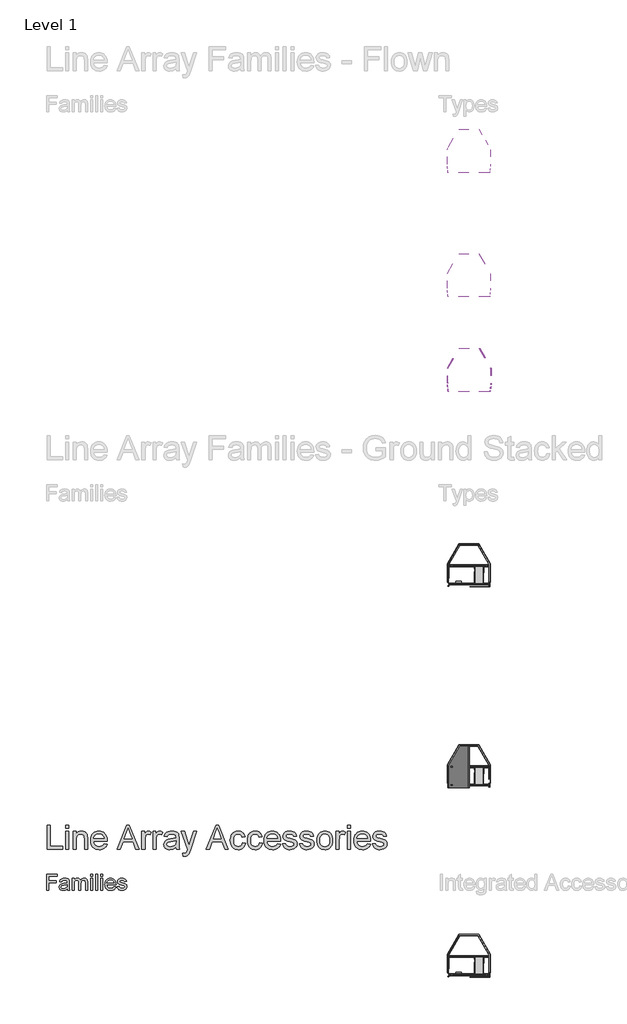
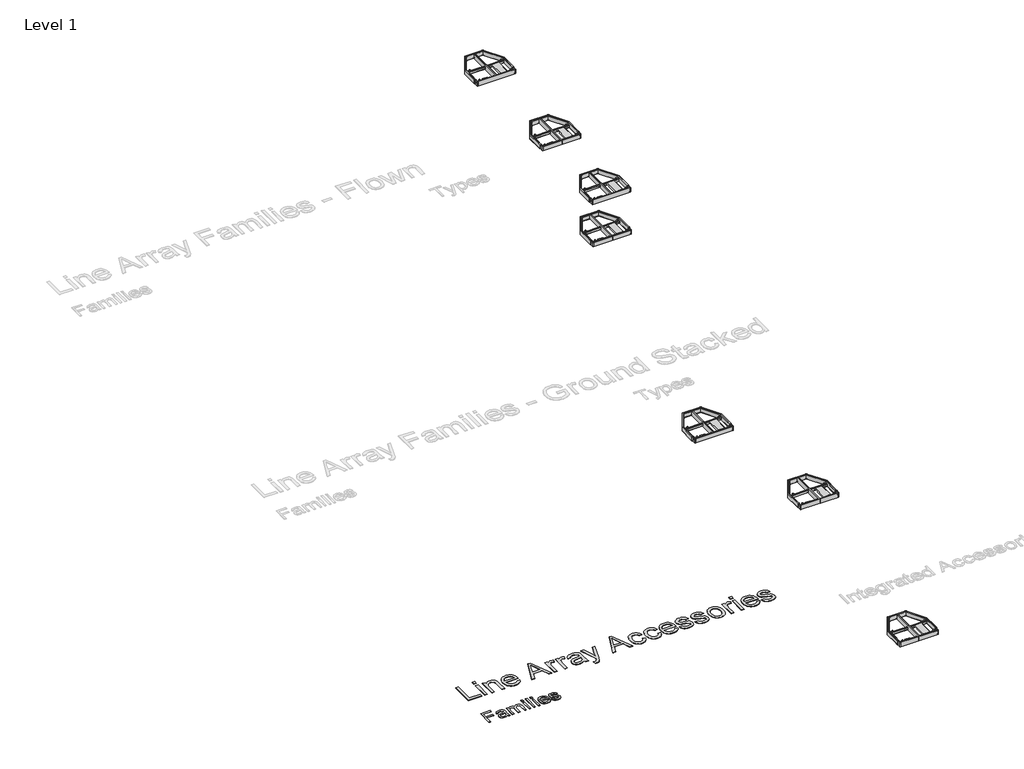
# One storey, part 1 of 7: 9 proxies.
"""IFC4 building model written with IfcOpenShell, lengths in millimetres."""

from ifc_helpers import new_model, si_unit, origin, origin_with_axes, place, context, project, spatial, polyline, outline, extrude, transform, mapped, element, save
from components import communication_devices_215e93a8, communication_devices_da0df73a

model = new_model("IFC4")

# Units and contexts
model_context = context("Model", 3, world=origin())
ifc_project = project(units=[si_unit("LENGTHUNIT", "METRE", prefix="MILLI")], contexts=[model_context])

# Site, building, storey
site = spatial("IfcSite", under=ifc_project)
building = spatial("IfcBuilding", under=site)
storey = spatial("IfcBuildingStorey", under=building, Name="Level 1", Elevation=0.0)

# Proxies
placement = place(None, origin())
communication_devices_shape = communication_devices_215e93a8(model_context)
communication_devices_2_shape = communication_devices_da0df73a(model_context)
element("IfcBuildingElementProxy", 1, Name="d&b J-Series Flying Frame : J Flying Frame", ObjectType="d&b J-Series Flying Frame : J Flying Frame", at=placement, inside=storey, context=model_context, shape_type="MappedRepresentation", body=[
    mapped(communication_devices_shape, transform((-10742.4933844, -14377.9378045, 0.0), x_axis=(1.0, 0.0, 0.0), y_axis=(0.0, 1.0, 0.0), z_axis=(0.0, 0.0, 1.0))),
    mapped(communication_devices_2_shape, transform((-10742.4933844, -14377.9378045, 0.0), x_axis=(1.0, 0.0, 0.0), y_axis=(0.0, 1.0, 0.0), z_axis=(0.0, 0.0, 1.0))),
])
element("IfcBuildingElementProxy", 2, Name="d&b J-Series Flying Frame : J Flying Frame", ObjectType="d&b J-Series Flying Frame : J Flying Frame", at=placement, inside=storey, context=model_context, shape_type="MappedRepresentation", body=[
    mapped(communication_devices_shape, transform((-10742.4933844, 2233.6323262, 4000.0), x_axis=(1.0000000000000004, 0.0, 0.0), y_axis=(0.0, 1.0000000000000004, 0.0), z_axis=(0.0, 0.0, 1.0))),
    mapped(communication_devices_2_shape, transform((-10742.4933844, 2233.6323262, 4000.0), x_axis=(1.0000000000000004, 0.0, 0.0), y_axis=(0.0, 1.0000000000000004, 0.0), z_axis=(0.0, 0.0, 1.0))),
])
element("IfcBuildingElementProxy", 3, Name="d&b J-Series Flying Frame : J Flying Frame", ObjectType="d&b J-Series Flying Frame : J Flying Frame", at=placement, inside=storey, context=model_context, shape_type="MappedRepresentation", body=[
    mapped(communication_devices_shape, transform((-10742.4933844, 5263.3893399, 4000.0065609), x_axis=(1.0000000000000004, 0.0, 0.0), y_axis=(0.0, 1.0000000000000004, 0.0), z_axis=(0.0, 0.0, 1.0))),
    mapped(communication_devices_2_shape, transform((-10742.4933844, 5263.3893399, 4000.0065609), x_axis=(1.0000000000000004, 0.0, 0.0), y_axis=(0.0, 1.0000000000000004, 0.0), z_axis=(0.0, 0.0, 1.0))),
])
element("IfcBuildingElementProxy", 4, Name="d&b J-Series Flying Frame : J Flying Frame", ObjectType="d&b J-Series Flying Frame : J Flying Frame", at=placement, inside=storey, context=model_context, shape_type="MappedRepresentation", body=[
    mapped(communication_devices_shape, transform((-10742.4933844, -77.9987699, 3880.0), x_axis=(1.0000000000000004, 0.0, 0.0), y_axis=(0.0, 1.0000000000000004, 0.0), z_axis=(0.0, 0.0, 1.0))),
    mapped(communication_devices_2_shape, transform((-10742.4933844, -77.9987699, 3880.0), x_axis=(1.0000000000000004, 0.0, 0.0), y_axis=(0.0, 1.0000000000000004, 0.0), z_axis=(0.0, 0.0, 1.0))),
])
element("IfcBuildingElementProxy", 5, Name="d&b J-Series Flying Frame : J Flying Frame", ObjectType="d&b J-Series Flying Frame : J Flying Frame", at=placement, inside=storey, context=model_context, shape_type="MappedRepresentation", body=[
    mapped(communication_devices_shape, transform((-10742.4933844, -4843.7257193, 0.0), x_axis=(1.0000000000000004, 0.0, 0.0), y_axis=(0.0, 1.0000000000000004, 0.0), z_axis=(0.0, 0.0, 1.0))),
    mapped(communication_devices_2_shape, transform((-10742.4933844, -4843.7257193, 0.0), x_axis=(1.0000000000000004, 0.0, 0.0), y_axis=(0.0, 1.0000000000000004, 0.0), z_axis=(0.0, 0.0, 1.0))),
])
element("IfcBuildingElementProxy", 6, Name="d&b J-Series Flying Frame : J Flying Frame", ObjectType="d&b J-Series Flying Frame : J Flying Frame", at=placement, inside=storey, context=model_context, shape_type="MappedRepresentation", body=[
    mapped(communication_devices_shape, transform((-10722.9933844, -77.9987699, 2675.5999957), x_axis=(1.0000000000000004, 0.0, 0.0), y_axis=(0.0, 1.0000000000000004, 0.0), z_axis=(0.0, 0.0, 1.0))),
    mapped(communication_devices_2_shape, transform((-10722.9933844, -77.9987699, 2675.5999957), x_axis=(1.0000000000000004, 0.0, 0.0), y_axis=(0.0, 1.0000000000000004, 0.0), z_axis=(0.0, 0.0, 1.0))),
])
element("IfcBuildingElementProxy", 7, Name="d&b J-Series Flying Frame : J Flying Frame", ObjectType="d&b J-Series Flying Frame : J Flying Frame", at=placement, inside=storey, context=model_context, shape_type="MappedRepresentation", body=[
    mapped(communication_devices_shape, transform((-10742.4933844, -9750.1464058, 1084.4000021), x_axis=(1.0000000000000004, 0.0, 0.0), y_axis=(0.0, 1.0000000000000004, 0.0), z_axis=(0.0, 0.0, 1.0))),
    mapped(communication_devices_2_shape, transform((-10742.4933844, -9750.1464058, 1084.4000021), x_axis=(1.0000000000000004, 0.0, 0.0), y_axis=(0.0, 1.0000000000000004, 0.0), z_axis=(0.0, 0.0, 1.0))),
])
element("IfcBuildingElementProxy", 8, Name="400mm Arial", ObjectType="400mm Arial", at=placement, inside=storey, context=model_context, shape_type="SweptSolid", body=[
    extrude(outline(polyline([(-21056.720891, -12248.6945164), (-21056.720891, -11856.9369407), (-20793.5087698, -11856.9369407), (-20793.5087698, -11905.9066376), (-21007.7511941, -11905.9066376), (-21007.7511941, -12022.2096679), (-20824.1148304, -12022.2096679), (-20824.1148304, -12071.1793649), (-21007.7511941, -12071.1793649), (-21007.7511941, -12248.6945164), (-21056.720891, -12248.6945164)])), origin_with_axes(), (0.0, 0.0, 1.0), 5.0),
    extrude(outline(polyline([(-20548.660285, -12211.9672437), (-20572.0571836, -12232.02856), (-20596.1475009, -12245.1556907), (-20621.4811893, -12252.4007191), (-20648.6082016, -12254.8157285), (-20670.4120309, -12253.3631362), (-20689.5318522, -12249.0053592), (-20705.9676654, -12241.7423976), (-20719.7194706, -12231.5742513), (-20730.5780466, -12219.1465169), (-20738.3341723, -12205.104791), (-20742.9878477, -12189.4490737), (-20744.5390729, -12172.1793649), (-20742.1957963, -12151.8789388), (-20735.1659668, -12133.4435695), (-20724.3223352, -12117.6623195), (-20710.5376524, -12105.3242513), (-20676.2493001, -12089.2560695), (-20633.879035, -12081.8914861), (-20583.8094327, -12074.144327), (-20548.9472168, -12065.0581528), (-20548.660285, -12054.1547437), (-20552.0317338, -12032.3001035), (-20562.1460804, -12018.0013346), (-20584.7658721, -12007.3848573), (-20616.2805501, -12003.8460316), (-20645.4519516, -12006.2012636), (-20665.8241107, -12013.2669596), (-20679.7163929, -12026.3343128), (-20689.4481638, -12046.6945164), (-20738.4178607, -12040.5733043), (-20729.9175056, -12013.7930013), (-20717.2327282, -11992.7513346), (-20699.1799346, -11976.6592418), (-20674.5755312, -11964.7276604), (-20644.4835568, -11957.339166), (-20609.9680501, -11954.8763346), (-20576.8632916, -11957.0522342), (-20550.6209857, -11963.5799331), (-20530.8346458, -11973.3953924), (-20517.097785, -11985.4345732), (-20507.9876997, -12000.3191613), (-20502.0816865, -12018.6708422), (-20499.690588, -12061.519327), (-20499.690588, -12122.4445164), (-20497.2038456, -12207.5198005), (-20487.4481638, -12248.6945164), (-20536.4178607, -12248.6945164), (-20544.2606638, -12231.6698952), (-20548.660285, -12211.9672437)]), holes=[polyline([(-20548.660285, -12114.0278498), (-20581.5618001, -12122.1814956), (-20627.6621789, -12129.0439482), (-20669.7933342, -12136.9823952), (-20680.7565208, -12142.4101888), (-20688.8743001, -12149.894327), (-20693.8956069, -12158.8609464), (-20695.5693759, -12168.7361831), (-20691.9229507, -12183.2979729), (-20680.9836751, -12195.2295543), (-20662.990659, -12203.1919123), (-20638.1830122, -12205.8460316), (-20611.8809289, -12202.9169359), (-20588.6394516, -12194.129649), (-20569.7975956, -12181.1818507), (-20556.6943759, -12165.771221), (-20550.8840066, -12149.894327), (-20548.9472168, -12127.896221), (-20548.660285, -12114.0278498)])]), origin_with_axes(), (0.0, 0.0, 1.0), 5.0),
    extrude(outline(polyline([(-20432.3572547, -12248.6945164), (-20432.3572547, -11960.9975467), (-20383.3875577, -11960.9975467), (-20383.3875577, -12008.3412967), (-20368.658391, -11986.594256), (-20349.720891, -11969.5576793), (-20327.2206543, -11958.5466708), (-20301.8032774, -11954.8763346), (-20274.5686657, -11958.6184037), (-20252.7379365, -11969.8446111), (-20236.4306448, -11987.8137162), (-20225.7663456, -12011.7844785), (-20207.9167954, -11986.8871656), (-20187.5565918, -11969.1033706), (-20164.6857348, -11958.4330936), (-20139.3042244, -11954.8763346), (-20119.7002057, -11956.3558268), (-20102.4932632, -11960.7943034), (-20087.683397, -11968.1917643), (-20075.2706069, -11978.5482096), (-20065.4581365, -11991.9831942), (-20058.4492291, -12008.6162731), (-20054.2438846, -12028.4474461), (-20052.8421032, -12051.4767134), (-20052.8421032, -12248.6945164), (-20101.8118001, -12248.6945164), (-20101.8118001, -12072.5183801), (-20106.3548872, -12031.630596), (-20112.7391202, -12020.3565666), (-20122.8056448, -12011.4975467), (-20135.7534431, -12005.7589104), (-20150.7814971, -12003.8460316), (-20177.3107348, -12008.7477835), (-20198.9382206, -12023.4530392), (-20207.3279874, -12034.7330463), (-20213.320678, -12048.96606), (-20218.1148304, -12086.2911073), (-20218.1148304, -12248.6945164), (-20267.0845274, -12248.6945164), (-20267.0845274, -12067.0666755), (-20269.9179791, -12039.3777551), (-20278.4183342, -12019.6272816), (-20293.3746552, -12007.7913441), (-20315.5760047, -12003.8460316), (-20334.4417717, -12006.4762399), (-20351.8250577, -12014.3668649), (-20366.1716486, -12027.3266187), (-20375.9273304, -12045.1642134), (-20381.5225009, -12069.9120827), (-20383.3875577, -12103.6026604), (-20383.3875577, -12248.6945164), (-20432.3572547, -12248.6945164)])), origin_with_axes(), (0.0, 0.0, 1.0), 5.0),
    extrude(outline(polyline([(-19979.3875577, -12248.6945164), (-19979.3875577, -11960.9975467), (-19930.4178607, -11960.9975467), (-19930.4178607, -12248.6945164), (-19979.3875577, -12248.6945164)])), origin_with_axes(), (0.0, 0.0, 1.0), 5.0),
    extrude(outline(polyline([(-19979.3875577, -11905.9066376), (-19979.3875577, -11856.9369407), (-19930.4178607, -11856.9369407), (-19930.4178607, -11905.9066376), (-19979.3875577, -11905.9066376)])), origin_with_axes(), (0.0, 0.0, 1.0), 5.0),
    extrude(outline(polyline([(-19856.9633153, -12248.6945164), (-19856.9633153, -11856.9369407), (-19807.9936183, -11856.9369407), (-19807.9936183, -12248.6945164), (-19856.9633153, -12248.6945164)])), origin_with_axes(), (0.0, 0.0, 1.0), 5.0),
    extrude(outline(polyline([(-19734.5390729, -12248.6945164), (-19734.5390729, -11960.9975467), (-19685.5693759, -11960.9975467), (-19685.5693759, -12248.6945164), (-19734.5390729, -12248.6945164)])), origin_with_axes(), (0.0, 0.0, 1.0), 5.0),
    extrude(outline(polyline([(-19734.5390729, -11905.9066376), (-19734.5390729, -11856.9369407), (-19685.5693759, -11856.9369407), (-19685.5693759, -11905.9066376), (-19734.5390729, -11905.9066376)])), origin_with_axes(), (0.0, 0.0, 1.0), 5.0),
    extrude(outline(polyline([(-19410.6886941, -12162.9975467), (-19362.6754365, -12169.1187589), (-19370.0370309, -12188.3491684), (-19379.975034, -12205.2960789), (-19392.4894457, -12219.9594904), (-19407.580266, -12232.3394028), (-19425.0920736, -12242.1727953), (-19444.8694469, -12249.1966471), (-19491.220891, -12254.8157285), (-19521.605775, -12252.3917525), (-19548.6789876, -12245.1198242), (-19572.4405288, -12232.9999437), (-19592.8903986, -12216.0321111), (-19609.3351784, -12194.6885683), (-19621.0814497, -12169.4415571), (-19628.1292125, -12140.2910777), (-19630.4784668, -12107.2371301), (-19628.1053015, -12073.062355), (-19620.9858058, -12042.9404918), (-19609.1199796, -12016.8715406), (-19592.5078229, -11994.8555013), (-19572.1117528, -11977.3646159), (-19548.8941865, -11964.8711263), (-19522.855124, -11957.3750325), (-19493.9945653, -11954.8763346), (-19466.0635461, -11957.3690548), (-19440.8045795, -11964.8472153), (-19418.2176654, -11977.3108161), (-19398.3028039, -11994.7598573), (-19382.0463231, -12016.7280747), (-19370.4345511, -12042.7492039), (-19363.4674879, -12072.8232451), (-19361.1451335, -12106.9501982), (-19361.4320653, -12120.1490619), (-19581.5087698, -12120.1490619), (-19578.6723292, -12139.6903142), (-19573.0323257, -12156.8046017), (-19564.5887592, -12171.4919241), (-19553.3416297, -12183.7522816), (-19524.9234242, -12200.3225941), (-19490.2644516, -12205.8460316), (-19464.2014782, -12203.2875562), (-19442.2511941, -12195.6121301), (-19424.4135994, -12182.3415335), (-19410.6886941, -12162.9975467)]), holes=[polyline([(-19581.5087698, -12071.1793649), (-19410.1148304, -12071.1793649), (-19416.7381732, -12045.3076793), (-19429.721838, -12026.800577), (-19443.076123, -12016.7579634), (-19458.2715539, -12009.5846679), (-19494.1858532, -12003.8460316), (-19527.1949677, -12008.4249852), (-19554.4893569, -12022.161846), (-19573.4627234, -12043.5741329), (-19581.5087698, -12071.1793649)])]), origin_with_axes(), (0.0, 0.0, 1.0), 5.0),
    extrude(outline(polyline([(-19330.5390729, -12162.9975467), (-19281.5693759, -12156.8763346), (-19273.8461278, -12177.8223573), (-19258.9017622, -12193.2210316), (-19236.6406354, -12202.6897816), (-19206.9671032, -12205.8460316), (-19177.6522357, -12202.9528024), (-19157.0409668, -12194.2731149), (-19144.8463645, -12181.6959369), (-19140.7814971, -12167.1102361), (-19144.8702755, -12154.628702), (-19157.1366107, -12145.1121301), (-19207.5409668, -12131.1481149), (-19281.2824441, -12107.1893081), (-19299.9449677, -12095.1501272), (-19313.4666297, -12079.2134558), (-19321.680053, -12060.3955107), (-19324.4178607, -12039.7125089), (-19322.2180501, -12020.7391424), (-19315.6186183, -12003.224346), (-19305.2173399, -11987.8615382), (-19291.6119895, -11975.3441376), (-19260.4798872, -11960.8540808), (-19218.3487319, -11954.8763346), (-19186.4753891, -11957.2793886), (-19158.7625577, -11964.4885505), (-19136.4775198, -11975.7984464), (-19120.8875577, -11990.503702), (-19110.5580122, -12009.6922674), (-19104.0542244, -12034.4520922), (-19153.0239213, -12040.5733043), (-19159.2049109, -12025.1626746), (-19171.4353797, -12013.5538914), (-19189.8348825, -12006.2729965), (-19214.5229744, -12003.8460316), (-19242.6422925, -12006.1653971), (-19261.3885047, -12013.1234937), (-19271.933249, -12023.1661073), (-19275.4481638, -12034.739024), (-19269.6138835, -12048.989971), (-19251.345891, -12059.7977361), (-19209.1669138, -12070.2229255), (-19137.2904933, -12093.2731149), (-19118.3051713, -12104.2960789), (-19103.9107585, -12119.3839104), (-19094.8365397, -12138.5844312), (-19091.8118001, -12161.9454634), (-19095.3625814, -12186.0955581), (-19106.0149251, -12208.8109937), (-19123.3623446, -12228.3104018), (-19146.9983532, -12242.8124142), (-19175.5480691, -12251.8149), (-19207.6366107, -12254.8157285), (-19233.9924938, -12253.369114), (-19257.0127944, -12249.0292702), (-19276.6975127, -12241.7961973), (-19293.0466486, -12231.6698952), (-19306.4009336, -12218.6981859), (-19317.1010994, -12202.9288914), (-19325.1471458, -12184.3620117), (-19330.5390729, -12162.9975467)])), origin_with_axes(), (0.0, 0.0, 1.0), 5.0),
])
element("IfcBuildingElementProxy", 9, Name="600mm Arial", ObjectType="600mm Arial", at=placement, inside=storey, context=model_context, shape_type="SweptSolid", body=[
    extrude(outline(polyline([(-21034.9539913, -11248.6945164), (-21034.9539913, -10657.9252857), (-20961.1078374, -10657.9252857), (-20961.1078374, -11174.8483626), (-20665.723222, -11174.8483626), (-20665.723222, -11248.6945164), (-21034.9539913, -11248.6945164)])), origin_with_axes(), (0.0, 0.0, 1.0), 5.0),
    extrude(outline(polyline([(-20591.8770682, -10731.7714395), (-20591.8770682, -10657.9252857), (-20518.0309143, -10657.9252857), (-20518.0309143, -10731.7714395), (-20591.8770682, -10731.7714395)])), origin_with_axes(), (0.0, 0.0, 1.0), 5.0),
    extrude(outline(polyline([(-20591.8770682, -11248.6945164), (-20591.8770682, -10814.8483626), (-20518.0309143, -10814.8483626), (-20518.0309143, -11248.6945164), (-20591.8770682, -11248.6945164)])), origin_with_axes(), (0.0, 0.0, 1.0), 5.0),
    extrude(outline(polyline([(-20407.2616836, -11248.6945164), (-20407.2616836, -10814.8483626), (-20333.4155297, -10814.8483626), (-20333.4155297, -10875.4252857), (-20307.7604817, -10844.8844203), (-20276.9491836, -10823.0695164), (-20240.9816355, -10809.9805741), (-20199.8578374, -10805.6175934), (-20163.457597, -10809.1332184), (-20130.1222605, -10819.6800934), (-20102.3217797, -10835.9421126), (-20082.5261067, -10856.6031703), (-20069.0946163, -10881.6091799), (-20060.3866836, -10910.9060549), (-20056.4924528, -10982.3002857), (-20056.4924528, -11248.6945164), (-20130.3386067, -11248.6945164), (-20130.3386067, -10992.2522087), (-20132.4660105, -10954.0671126), (-20138.848222, -10926.9156703), (-20150.6210586, -10907.4625453), (-20168.9203374, -10892.372401), (-20192.3758663, -10882.6909107), (-20219.6174528, -10879.4637472), (-20242.0408302, -10881.2756462), (-20262.8686547, -10886.7113434), (-20282.1009264, -10895.7708385), (-20299.7376451, -10908.4541318), (-20314.4717196, -10926.2035309), (-20324.9960586, -10950.4613434), (-20331.3106619, -10981.2275693), (-20333.4155297, -11018.5022087), (-20333.4155297, -11248.6945164), (-20407.2616836, -11248.6945164)])), origin_with_axes(), (0.0, 0.0, 1.0), 5.0),
    extrude(outline(polyline([(-19651.2039913, -11119.4637472), (-19578.8001451, -11128.6945164), (-19589.9014071, -11157.6939155), (-19604.8878855, -11183.2498049), (-19623.7595802, -11205.3621847), (-19646.5164913, -11224.0310549), (-19672.9242437, -11238.8597809), (-19702.7484624, -11249.451728), (-19735.9891475, -11255.8068962), (-19772.646299, -11257.9252857), (-19818.4666115, -11254.2699371), (-19859.2929336, -11243.3038914), (-19895.1252653, -11225.0271486), (-19925.9636067, -11199.4397087), (-19950.7622845, -11167.2537111), (-19968.4756259, -11129.1812953), (-19979.1036307, -11085.2224611), (-19982.646299, -11035.3772087), (-19979.067573, -10983.841752), (-19968.3313951, -10938.4180741), (-19950.4377653, -10899.1061751), (-19925.3866836, -10865.9060549), (-19894.629472, -10839.529853), (-19859.6174528, -10820.6897087), (-19820.3506259, -10809.3856222), (-19776.8289913, -10805.6175934), (-19734.7090994, -10809.3766078), (-19696.6186547, -10820.653651), (-19662.5576571, -10839.4487232), (-19632.5261067, -10865.7618241), (-19608.0113831, -10898.8898289), (-19590.5008663, -10938.1296126), (-19579.9945562, -10983.4811751), (-19576.4924528, -11034.9445164), (-19576.9251451, -11054.8483626), (-19908.8001451, -11054.8483626), (-19904.5228014, -11084.3165116), (-19896.0176932, -11110.1248049), (-19883.2848206, -11132.2732424), (-19866.3241836, -11150.7618241), (-19846.0732821, -11165.3381462), (-19823.4696163, -11175.7498049), (-19798.513186, -11181.9968001), (-19771.2039913, -11184.0791318), (-19731.9011067, -11180.2209587), (-19698.8001451, -11168.6464395), (-19671.9011067, -11148.6344203), (-19651.2039913, -11119.4637472)]), holes=[polyline([(-19908.8001451, -10981.0022087), (-19650.3386067, -10981.0022087), (-19660.3265874, -10941.9877857), (-19668.9173326, -10926.6452376), (-19679.9059143, -10914.0791318), (-19700.0441355, -10898.934901), (-19722.958799, -10888.1175934), (-19748.6499047, -10881.6272087), (-19777.1174528, -10879.4637472), (-19803.0834985, -10881.1900092), (-19826.895097, -10886.3687953), (-19848.5522485, -10895.0001054), (-19868.0549528, -10907.0839395), (-19884.4206379, -10922.0614034), (-19896.6667317, -10939.373603), (-19904.7932341, -10959.0205381), (-19908.8001451, -10981.0022087)])]), origin_with_axes(), (0.0, 0.0, 1.0), 5.0),
    extrude(outline(polyline([(-19331.4443759, -11248.6945164), (-19095.6270682, -10657.9252857), (-19032.7424528, -10657.9252857), (-18796.9251451, -11248.6945164), (-18874.9539913, -11248.6945164), (-18942.598222, -11064.0791318), (-19185.9155297, -11064.0791318), (-19253.4155297, -11248.6945164), (-19331.4443759, -11248.6945164)]), holes=[polyline([(-19158.8001451, -10990.232978), (-18969.5693759, -10990.232978), (-19022.7905297, -10844.9925934), (-19064.1847605, -10731.7714395), (-19100.9636067, -10832.3002857), (-19158.8001451, -10990.232978)])]), origin_with_axes(), (0.0, 0.0, 1.0), 5.0),
    extrude(outline(polyline([(-18727.2616836, -11248.6945164), (-18727.2616836, -10814.8483626), (-18662.646299, -10814.8483626), (-18662.646299, -10879.0310549), (-18638.7761067, -10841.8195164), (-18616.7809143, -10819.8964395), (-18594.7136067, -10809.1873049), (-18570.6270682, -10805.6175934), (-18533.848222, -10811.3147087), (-18496.4924528, -10828.4060549), (-18521.1559143, -10894.607978), (-18547.1174528, -10883.2498049), (-18573.0789913, -10879.4637472), (-18595.1282701, -10883.1055741), (-18614.833799, -10894.0310549), (-18630.7532701, -10911.4108626), (-18641.4443759, -10934.4156703), (-18650.4227413, -10975.6656703), (-18653.4155297, -11020.6656703), (-18653.4155297, -11248.6945164), (-18727.2616836, -11248.6945164)])), origin_with_axes(), (0.0, 0.0, 1.0), 5.0),
    extrude(outline(polyline([(-18450.3386067, -11248.6945164), (-18450.3386067, -10814.8483626), (-18385.723222, -10814.8483626), (-18385.723222, -10879.0310549), (-18361.8530297, -10841.8195164), (-18339.8578374, -10819.8964395), (-18317.7905297, -10809.1873049), (-18293.7039913, -10805.6175934), (-18256.9251451, -10811.3147087), (-18219.5693759, -10828.4060549), (-18244.2328374, -10894.607978), (-18270.1943759, -10883.2498049), (-18296.1559143, -10879.4637472), (-18318.2051932, -10883.1055741), (-18337.910722, -10894.0310549), (-18353.8301932, -10911.4108626), (-18364.521299, -10934.4156703), (-18373.4996643, -10975.6656703), (-18376.4924528, -11020.6656703), (-18376.4924528, -11248.6945164), (-18450.3386067, -11248.6945164)])), origin_with_axes(), (0.0, 0.0, 1.0), 5.0),
    extrude(outline(polyline([(-17896.4924528, -11193.309901), (-17931.7749047, -11223.5623049), (-17968.1030297, -11243.357978), (-18006.3061547, -11254.2834587), (-18047.2136067, -11257.9252857), (-18080.0937148, -11255.7347809), (-18108.926347, -11249.1632664), (-18133.7115033, -11238.2107424), (-18154.4491836, -11222.8772087), (-18170.8238831, -11204.1362232), (-18182.520097, -11182.9613434), (-18189.5378254, -11159.3525693), (-18191.8770682, -11133.309901), (-18188.3434143, -11102.6969203), (-18177.7424528, -11074.8964395), (-18161.3902893, -11051.0983626), (-18140.6030297, -11032.4925934), (-18116.1739432, -11018.4300934), (-18088.896299, -11008.2618241), (-18025.0020682, -10997.1560549), (-17949.4972605, -10985.4733626), (-17896.9251451, -10971.7714395), (-17896.4924528, -10955.3291318), (-17901.5765874, -10922.372401), (-17907.9317557, -10910.1668722), (-17916.8289913, -10900.809901), (-17932.207597, -10891.4709587), (-17950.9395682, -10884.8002857), (-17998.4636067, -10879.4637472), (-18042.4539913, -10883.0154299), (-18073.1751451, -10893.670478), (-18094.1246643, -10913.3760068), (-18108.8001451, -10944.0791318), (-18182.646299, -10934.8483626), (-18169.8277893, -10894.4637472), (-18150.6991836, -10862.732978), (-18123.4756259, -10838.466151), (-18086.3722605, -10820.4733626), (-18040.9936547, -10809.3315357), (-17988.9443759, -10805.6175934), (-17939.0225009, -10808.8988434), (-17899.4491836, -10818.7425934), (-17869.6114432, -10833.544276), (-17848.896299, -10851.6993241), (-17835.1583182, -10874.1452376), (-17826.2520682, -10901.8195164), (-17822.646299, -10966.434901), (-17822.646299, -11058.309901), (-17818.896299, -11186.6031703), (-17813.3434143, -11218.3159107), (-17804.1847605, -11248.6945164), (-17878.0309143, -11248.6945164), (-17889.8578374, -11223.0214395), (-17896.4924528, -11193.309901)]), holes=[polyline([(-17896.4924528, -11045.6175934), (-17946.1078374, -11057.9132664), (-18015.6270682, -11068.2618241), (-18079.160722, -11080.232978), (-18095.693174, -11088.4180741), (-18107.9347605, -11099.7041318), (-18115.5068759, -11113.2257664), (-18118.0309143, -11128.1175934), (-18112.5321163, -11150.076728), (-18096.035722, -11168.0695164), (-18068.9023086, -11180.076728), (-18031.4924528, -11184.0791318), (-17991.8289913, -11179.6620645), (-17956.7809143, -11166.4108626), (-17928.3674528, -11146.8856222), (-17908.6078374, -11123.6464395), (-17899.8458182, -11099.7041318), (-17896.9251451, -11066.5310549), (-17896.4924528, -11045.6175934)])]), origin_with_axes(), (0.0, 0.0, 1.0), 5.0),
    extrude(outline(polyline([(-17721.1078374, -11414.8483626), (-17730.3386067, -11343.7425934), (-17692.8386067, -11350.232978), (-17673.115049, -11348.1957184), (-17657.7905297, -11342.0839395), (-17645.8554336, -11332.3303337), (-17636.3001451, -11319.3675934), (-17616.1078374, -11264.9925934), (-17610.3386067, -11247.107978), (-17767.2616836, -10814.8483626), (-17689.3770682, -10814.8483626), (-17606.1559143, -11055.7137472), (-17577.1655297, -11152.059901), (-17548.1751451, -11066.9637472), (-17462.646299, -10814.8483626), (-17385.3386067, -10814.8483626), (-17536.348222, -11259.0791318), (-17575.5789913, -11355.4252857), (-17595.6631259, -11386.1824972), (-17618.4155297, -11407.4925934), (-17644.8458182, -11419.9324972), (-17675.9636067, -11424.0791318), (-17697.3458182, -11421.7714395), (-17721.1078374, -11414.8483626)])), origin_with_axes(), (0.0, 0.0, 1.0), 5.0),
    extrude(outline(polyline([(-17152.9828374, -11248.6945164), (-16917.1655297, -10657.9252857), (-16854.2809143, -10657.9252857), (-16618.4636067, -11248.6945164), (-16696.4924528, -11248.6945164), (-16764.1366836, -11064.0791318), (-17007.4539913, -11064.0791318), (-17074.9539913, -11248.6945164), (-17152.9828374, -11248.6945164)]), holes=[polyline([(-16980.3386067, -10990.232978), (-16791.1078374, -10990.232978), (-16844.3289913, -10844.9925934), (-16885.723222, -10731.7714395), (-16922.5020682, -10832.3002857), (-16980.3386067, -10990.232978)])]), origin_with_axes(), (0.0, 0.0, 1.0), 5.0),
    extrude(outline(polyline([(-16271.8770682, -11091.7714395), (-16198.0309143, -11101.0022087), (-16206.0627653, -11135.8474611), (-16218.6198567, -11166.6812953), (-16235.7021884, -11193.5037111), (-16257.3097605, -11216.3147087), (-16282.5321163, -11234.5193361), (-16310.458799, -11247.5226414), (-16341.0898086, -11255.3246246), (-16374.4251451, -11257.9252857), (-16415.8419119, -11254.2969804), (-16452.9768278, -11243.4120645), (-16485.8298927, -11225.2705381), (-16514.4011067, -11199.872401), (-16537.5276091, -11167.6954179), (-16554.0465393, -11129.217353), (-16563.9578975, -11084.4382063), (-16567.2616836, -11033.357978), (-16561.6186547, -10967.6428337), (-16554.5648687, -10938.0710188), (-16544.6895682, -10910.6897087), (-16531.9251451, -10886.0487833), (-16516.2039913, -10864.6981222), (-16497.5261067, -10846.6377256), (-16475.8914913, -10831.8675934), (-16452.27821, -10820.3832184), (-16427.6643278, -10812.1800934), (-16402.0498446, -10807.2582184), (-16375.4347605, -10805.6175934), (-16342.6718398, -10807.8711991), (-16313.036924, -10814.6320164), (-16286.5300129, -10825.9000453), (-16263.1511067, -10841.6752857), (-16243.2968398, -10861.5971607), (-16227.363847, -10885.3050934), (-16215.3521283, -10912.7990837), (-16207.2616836, -10944.0791318), (-16281.1078374, -10953.309901), (-16294.5032701, -10921.092353), (-16315.3626451, -10897.997401), (-16342.5321163, -10884.0971607), (-16374.8578374, -10879.4637472), (-16399.9494841, -10881.7443962), (-16422.5801932, -10888.5863434), (-16442.7499648, -10899.9895885), (-16460.458799, -10915.9541318), (-16474.8773687, -10936.8495645), (-16485.176347, -10963.045478), (-16491.3557341, -10994.5418722), (-16493.4155297, -11031.3387472), (-16491.4008062, -11068.6900092), (-16485.3566355, -11100.5514876), (-16475.2830177, -11126.9231823), (-16461.1799528, -11147.8050934), (-16443.8226812, -11163.6749852), (-16423.9864432, -11175.0106222), (-16401.6712389, -11181.8120044), (-16376.8770682, -11184.0791318), (-16338.6378855, -11178.4180741), (-16322.1009264, -11171.341752), (-16307.285722, -11161.434901), (-16294.606936, -11148.5893482), (-16284.4792317, -11132.6969203), (-16276.9026091, -11113.7576174), (-16271.8770682, -11091.7714395)])), origin_with_axes(), (0.0, 0.0, 1.0), 5.0),
    extrude(outline(polyline([(-15856.4924528, -11091.7714395), (-15782.646299, -11101.0022087), (-15790.6781499, -11135.8474611), (-15803.2352413, -11166.6812953), (-15820.317573, -11193.5037111), (-15841.9251451, -11216.3147087), (-15867.1475009, -11234.5193361), (-15895.0741836, -11247.5226414), (-15925.7051932, -11255.3246246), (-15959.0405297, -11257.9252857), (-16000.4572966, -11254.2969804), (-16037.5922124, -11243.4120645), (-16070.4452773, -11225.2705381), (-16099.0164913, -11199.872401), (-16122.1429937, -11167.6954179), (-16138.661924, -11129.217353), (-16148.5732821, -11084.4382063), (-16151.8770682, -11033.357978), (-16146.2340393, -10967.6428337), (-16139.1802533, -10938.0710188), (-16129.3049528, -10910.6897087), (-16116.5405297, -10886.0487833), (-16100.8193759, -10864.6981222), (-16082.1414913, -10846.6377256), (-16060.5068759, -10831.8675934), (-16036.8935946, -10820.3832184), (-16012.2797124, -10812.1800934), (-15986.6652292, -10807.2582184), (-15960.0501451, -10805.6175934), (-15927.2872244, -10807.8711991), (-15897.6523086, -10814.6320164), (-15871.1453975, -10825.9000453), (-15847.7664913, -10841.6752857), (-15827.9122244, -10861.5971607), (-15811.9792317, -10885.3050934), (-15799.9675129, -10912.7990837), (-15791.8770682, -10944.0791318), (-15865.723222, -10953.309901), (-15879.1186547, -10921.092353), (-15899.9780297, -10897.997401), (-15927.1475009, -10884.0971607), (-15959.473222, -10879.4637472), (-15984.5648687, -10881.7443962), (-16007.1955778, -10888.5863434), (-16027.3653494, -10899.9895885), (-16045.0741836, -10915.9541318), (-16059.4927533, -10936.8495645), (-16069.7917317, -10963.045478), (-16075.9711187, -10994.5418722), (-16078.0309143, -11031.3387472), (-16076.0161908, -11068.6900092), (-16069.9720201, -11100.5514876), (-16059.8984023, -11126.9231823), (-16045.7953374, -11147.8050934), (-16028.4380658, -11163.6749852), (-16008.6018278, -11175.0106222), (-15986.2866235, -11181.8120044), (-15961.4924528, -11184.0791318), (-15923.2532701, -11178.4180741), (-15906.716311, -11171.341752), (-15891.9011067, -11161.434901), (-15879.2223206, -11148.5893482), (-15869.0946163, -11132.6969203), (-15861.5179937, -11113.7576174), (-15856.4924528, -11091.7714395)])), origin_with_axes(), (0.0, 0.0, 1.0), 5.0),
    extrude(outline(polyline([(-15414.2809143, -11119.4637472), (-15341.8770682, -11128.6945164), (-15352.9783302, -11157.6939155), (-15367.9648086, -11183.2498049), (-15386.8365033, -11205.3621847), (-15409.5934143, -11224.0310549), (-15436.0011667, -11238.8597809), (-15465.8253855, -11249.451728), (-15499.0660706, -11255.8068962), (-15535.723222, -11257.9252857), (-15581.5435345, -11254.2699371), (-15622.3698567, -11243.3038914), (-15658.2021884, -11225.0271486), (-15689.0405297, -11199.4397087), (-15713.8392076, -11167.2537111), (-15731.552549, -11129.1812953), (-15742.1805538, -11085.2224611), (-15745.723222, -11035.3772087), (-15742.1444961, -10983.841752), (-15731.4083182, -10938.4180741), (-15713.5146884, -10899.1061751), (-15688.4636067, -10865.9060549), (-15657.7063951, -10839.529853), (-15622.6943759, -10820.6897087), (-15583.427549, -10809.3856222), (-15539.9059143, -10805.6175934), (-15497.7860225, -10809.3766078), (-15459.6955778, -10820.653651), (-15425.6345802, -10839.4487232), (-15395.6030297, -10865.7618241), (-15371.0883062, -10898.8898289), (-15353.5777893, -10938.1296126), (-15343.0714792, -10983.4811751), (-15339.5693759, -11034.9445164), (-15340.0020682, -11054.8483626), (-15671.8770682, -11054.8483626), (-15667.5997244, -11084.3165116), (-15659.0946163, -11110.1248049), (-15646.3617437, -11132.2732424), (-15629.4011067, -11150.7618241), (-15609.1502052, -11165.3381462), (-15586.5465393, -11175.7498049), (-15561.5901091, -11181.9968001), (-15534.2809143, -11184.0791318), (-15494.9780297, -11180.2209587), (-15461.8770682, -11168.6464395), (-15434.9780297, -11148.6344203), (-15414.2809143, -11119.4637472)]), holes=[polyline([(-15671.8770682, -10981.0022087), (-15413.4155297, -10981.0022087), (-15423.4035105, -10941.9877857), (-15431.9942557, -10926.6452376), (-15442.9828374, -10914.0791318), (-15463.1210586, -10898.934901), (-15486.035722, -10888.1175934), (-15511.7268278, -10881.6272087), (-15540.1943759, -10879.4637472), (-15566.1604216, -10881.1900092), (-15589.9720201, -10886.3687953), (-15611.6291716, -10895.0001054), (-15631.1318759, -10907.0839395), (-15647.497561, -10922.0614034), (-15659.7436547, -10939.373603), (-15667.8701571, -10959.0205381), (-15671.8770682, -10981.0022087)])]), origin_with_axes(), (0.0, 0.0, 1.0), 5.0),
    extrude(outline(polyline([(-15293.4155297, -11119.4637472), (-15219.5693759, -11110.232978), (-15215.1072365, -11127.0719203), (-15207.9227413, -11141.8195164), (-15198.0158903, -11154.4757664), (-15185.3866836, -11165.0406703), (-15169.9990634, -11173.3699972), (-15151.816972, -11179.3195164), (-15107.0693759, -11184.0791318), (-15062.8626451, -11179.716151), (-15045.6811547, -11174.2624251), (-15031.7809143, -11166.6272087), (-15013.3914913, -11147.6608626), (-15007.2616836, -11125.6656703), (-15008.8031499, -11115.6957184), (-15013.427549, -11106.8435549), (-15031.9251451, -11092.4925934), (-15059.5813951, -11083.1175934), (-15107.9347605, -11071.434901), (-15175.3265874, -11051.9457184), (-15219.1366836, -11035.3050934), (-15247.2797124, -11017.1500453), (-15267.6703374, -10993.1175934), (-15280.0561547, -10964.7401895), (-15284.1847605, -10933.5502857), (-15280.8674528, -10904.9385068), (-15270.9155297, -10878.5262472), (-15255.2304336, -10855.3591799), (-15234.7136067, -10836.482978), (-15214.3229817, -10824.6019684), (-15187.7664913, -10814.6320164), (-15157.0633663, -10807.8711991), (-15124.2328374, -10805.6175934), (-15076.1679336, -10809.2413914), (-15034.3770682, -10820.1127857), (-15000.771299, -10837.1680741), (-14977.2616836, -10859.3435549), (-14961.6847605, -10888.279853), (-14951.8770682, -10925.6175934), (-15025.723222, -10934.8483626), (-15035.0441355, -10911.6091799), (-15053.4876451, -10894.1031703), (-15081.2340393, -10883.123603), (-15118.4636067, -10879.4637472), (-15160.8674528, -10882.9613434), (-15189.1366836, -10893.4541318), (-15205.0381259, -10908.5983626), (-15210.3386067, -10926.0502857), (-15208.1390874, -10937.4084587), (-15201.5405297, -10947.5406703), (-15190.254472, -10956.591151), (-15173.9924528, -10963.8387472), (-15110.3866836, -10979.559901), (-15001.9972605, -11014.3195164), (-14973.3674528, -11030.9421126), (-14951.660722, -11053.6945164), (-14937.9768278, -11082.6488434), (-14933.4155297, -11117.8772087), (-14938.770097, -11154.295478), (-14954.833799, -11188.5502857), (-14980.9936547, -11217.9553337), (-15016.6366836, -11239.8243241), (-15059.6895682, -11253.4000453), (-15108.0789913, -11257.9252857), (-15147.8235826, -11255.7437953), (-15182.5381259, -11249.1993241), (-15212.2226211, -11238.2918722), (-15236.8770682, -11223.0214395), (-15257.0152893, -11203.4601414), (-15273.1511067, -11179.6800934), (-15285.2845201, -11151.6812953), (-15293.4155297, -11119.4637472)])), origin_with_axes(), (0.0, 0.0, 1.0), 5.0),
    extrude(outline(polyline([(-14878.0309143, -11119.4637472), (-14804.1847605, -11110.232978), (-14799.7226211, -11127.0719203), (-14792.5381259, -11141.8195164), (-14782.6312749, -11154.4757664), (-14770.0020682, -11165.0406703), (-14754.614448, -11173.3699972), (-14736.4323567, -11179.3195164), (-14691.6847605, -11184.0791318), (-14647.4780297, -11179.716151), (-14630.2965393, -11174.2624251), (-14616.396299, -11166.6272087), (-14598.0068759, -11147.6608626), (-14591.8770682, -11125.6656703), (-14593.4185345, -11115.6957184), (-14598.0429336, -11106.8435549), (-14616.5405297, -11092.4925934), (-14644.1967797, -11083.1175934), (-14692.5501451, -11071.434901), (-14759.941972, -11051.9457184), (-14803.7520682, -11035.3050934), (-14831.895097, -11017.1500453), (-14852.285722, -10993.1175934), (-14864.6715393, -10964.7401895), (-14868.8001451, -10933.5502857), (-14865.4828374, -10904.9385068), (-14855.5309143, -10878.5262472), (-14839.8458182, -10855.3591799), (-14819.3289913, -10836.482978), (-14798.9383663, -10824.6019684), (-14772.3818759, -10814.6320164), (-14741.6787509, -10807.8711991), (-14708.848222, -10805.6175934), (-14660.7833182, -10809.2413914), (-14618.9924528, -10820.1127857), (-14585.3866836, -10837.1680741), (-14561.8770682, -10859.3435549), (-14546.3001451, -10888.279853), (-14536.4924528, -10925.6175934), (-14610.3386067, -10934.8483626), (-14619.6595201, -10911.6091799), (-14638.1030297, -10894.1031703), (-14665.849424, -10883.123603), (-14703.0789913, -10879.4637472), (-14745.4828374, -10882.9613434), (-14773.7520682, -10893.4541318), (-14789.6535105, -10908.5983626), (-14794.9539913, -10926.0502857), (-14792.754472, -10937.4084587), (-14786.1559143, -10947.5406703), (-14774.8698567, -10956.591151), (-14758.6078374, -10963.8387472), (-14695.0020682, -10979.559901), (-14586.6126451, -11014.3195164), (-14557.9828374, -11030.9421126), (-14536.2761067, -11053.6945164), (-14522.5922124, -11082.6488434), (-14518.0309143, -11117.8772087), (-14523.3854817, -11154.295478), (-14539.4491836, -11188.5502857), (-14565.6090393, -11217.9553337), (-14601.2520682, -11239.8243241), (-14644.3049528, -11253.4000453), (-14692.6943759, -11257.9252857), (-14732.4389672, -11255.7437953), (-14767.1535105, -11249.1993241), (-14796.8380057, -11238.2918722), (-14821.4924528, -11223.0214395), (-14841.630674, -11203.4601414), (-14857.7664913, -11179.6800934), (-14869.8999047, -11151.6812953), (-14878.0309143, -11119.4637472)])), origin_with_axes(), (0.0, 0.0, 1.0), 5.0),
    extrude(outline(polyline([(-14453.4155297, -11031.7714395), (-14449.4221403, -10975.5845405), (-14437.441972, -10927.1680741), (-14417.4750249, -10886.5220405), (-14389.521299, -10853.6464395), (-14361.3782701, -10832.6338193), (-14330.3145682, -10817.6248049), (-14296.3301932, -10808.6193962), (-14259.4251451, -10805.6175934), (-14218.68446, -10809.2729419), (-14181.8470201, -10820.2389876), (-14148.9128254, -10838.5157304), (-14119.8818759, -10864.1031703), (-14096.1874648, -10896.1359227), (-14079.2628855, -10933.748603), (-14069.1081379, -10976.9412111), (-14065.723222, -11025.7137472), (-14067.2196163, -11065.2419924), (-14071.708799, -11100.3171126), (-14079.1907701, -11130.9391078), (-14089.6655297, -11157.107978), (-14103.0023687, -11179.7116438), (-14119.0705778, -11199.638026), (-14137.8701571, -11216.8871246), (-14159.4011067, -11231.4589395), (-14182.825085, -11243.0379659), (-14207.3037509, -11251.3086991), (-14232.8371042, -11256.271139), (-14259.4251451, -11257.9252857), (-14300.7607821, -11254.2834587), (-14337.9407701, -11243.357978), (-14370.9651091, -11225.1488434), (-14399.833799, -11199.6560549), (-14423.2758062, -11167.3123049), (-14440.020097, -11128.5502857), (-14450.0666716, -11083.3699972), (-14453.4155297, -11031.7714395)]), holes=[polyline([(-14379.5693759, -11031.6272087), (-14377.4329576, -11067.4460188), (-14371.0237028, -11098.4601414), (-14360.3416115, -11124.6695765), (-14345.3866836, -11146.0743241), (-14327.1955778, -11162.7014275), (-14306.8049528, -11174.5779299), (-14284.2148086, -11181.7038313), (-14259.4251451, -11184.0791318), (-14234.7616836, -11181.6903097), (-14212.2616836, -11174.5238434), (-14191.9251451, -11162.5797328), (-14173.7520682, -11145.857978), (-14158.7971403, -11124.2413914), (-14148.115049, -11097.6127857), (-14141.7057942, -11065.9721607), (-14139.5693759, -11029.3195164), (-14141.7193158, -10994.6365236), (-14148.1691355, -10964.4336991), (-14158.918835, -10938.7110429), (-14173.9684143, -10917.4685549), (-14192.2090994, -10900.8414515), (-14212.5321163, -10888.9649491), (-14234.9374648, -10881.8390477), (-14259.4251451, -10879.4637472), (-14284.2148086, -10881.8300333), (-14306.8049528, -10888.9288914), (-14327.1955778, -10900.7603217), (-14345.3866836, -10917.3243241), (-14360.3416115, -10938.6659708), (-14371.0237028, -10964.8303337), (-14377.4329576, -10995.8174131), (-14379.5693759, -11031.6272087)])]), origin_with_axes(), (0.0, 0.0, 1.0), 5.0),
    extrude(outline(polyline([(-13982.646299, -11248.6945164), (-13982.646299, -10814.8483626), (-13918.0309143, -10814.8483626), (-13918.0309143, -10879.0310549), (-13894.160722, -10841.8195164), (-13872.1655297, -10819.8964395), (-13850.098222, -10809.1873049), (-13826.0116836, -10805.6175934), (-13789.2328374, -10811.3147087), (-13751.8770682, -10828.4060549), (-13776.5405297, -10894.607978), (-13802.5020682, -10883.2498049), (-13828.4636067, -10879.4637472), (-13850.5128855, -10883.1055741), (-13870.2184143, -10894.0310549), (-13886.1378855, -10911.4108626), (-13896.8289913, -10934.4156703), (-13905.8073567, -10975.6656703), (-13908.8001451, -11020.6656703), (-13908.8001451, -11248.6945164), (-13982.646299, -11248.6945164)])), origin_with_axes(), (0.0, 0.0, 1.0), 5.0),
    extrude(outline(polyline([(-13705.723222, -11248.6945164), (-13705.723222, -10814.8483626), (-13631.8770682, -10814.8483626), (-13631.8770682, -11248.6945164), (-13705.723222, -11248.6945164)])), origin_with_axes(), (0.0, 0.0, 1.0), 5.0),
    extrude(outline(polyline([(-13705.723222, -10731.7714395), (-13705.723222, -10657.9252857), (-13631.8770682, -10657.9252857), (-13631.8770682, -10731.7714395), (-13705.723222, -10731.7714395)])), origin_with_axes(), (0.0, 0.0, 1.0), 5.0),
    extrude(outline(polyline([(-13217.3578374, -11119.4637472), (-13144.9539913, -11128.6945164), (-13156.0552533, -11157.6939155), (-13171.0417317, -11183.2498049), (-13189.9134264, -11205.3621847), (-13212.6703374, -11224.0310549), (-13239.0780898, -11238.8597809), (-13268.9023086, -11249.451728), (-13302.1429937, -11255.8068962), (-13338.8001451, -11257.9252857), (-13384.6204576, -11254.2699371), (-13425.4467797, -11243.3038914), (-13461.2791115, -11225.0271486), (-13492.1174528, -11199.4397087), (-13516.9161307, -11167.2537111), (-13534.629472, -11129.1812953), (-13545.2574768, -11085.2224611), (-13548.8001451, -11035.3772087), (-13545.2214192, -10983.841752), (-13534.4852413, -10938.4180741), (-13516.5916115, -10899.1061751), (-13491.5405297, -10865.9060549), (-13460.7833182, -10839.529853), (-13425.771299, -10820.6897087), (-13386.504472, -10809.3856222), (-13342.9828374, -10805.6175934), (-13300.8629456, -10809.3766078), (-13262.7725009, -10820.653651), (-13228.7115033, -10839.4487232), (-13198.6799528, -10865.7618241), (-13174.1652292, -10898.8898289), (-13156.6547124, -10938.1296126), (-13146.1484023, -10983.4811751), (-13142.646299, -11034.9445164), (-13143.0789913, -11054.8483626), (-13474.9539913, -11054.8483626), (-13470.6766475, -11084.3165116), (-13462.1715393, -11110.1248049), (-13449.4386667, -11132.2732424), (-13432.4780297, -11150.7618241), (-13412.2271283, -11165.3381462), (-13389.6234624, -11175.7498049), (-13364.6670321, -11181.9968001), (-13337.3578374, -11184.0791318), (-13298.0549528, -11180.2209587), (-13264.9539913, -11168.6464395), (-13238.0549528, -11148.6344203), (-13217.3578374, -11119.4637472)]), holes=[polyline([(-13474.9539913, -10981.0022087), (-13216.4924528, -10981.0022087), (-13226.4804336, -10941.9877857), (-13235.0711788, -10926.6452376), (-13246.0597605, -10914.0791318), (-13266.1979817, -10898.934901), (-13289.1126451, -10888.1175934), (-13314.8037509, -10881.6272087), (-13343.271299, -10879.4637472), (-13369.2373446, -10881.1900092), (-13393.0489432, -10886.3687953), (-13414.7060946, -10895.0001054), (-13434.208799, -10907.0839395), (-13450.5744841, -10922.0614034), (-13462.8205778, -10939.373603), (-13470.9470802, -10959.0205381), (-13474.9539913, -10981.0022087)])]), origin_with_axes(), (0.0, 0.0, 1.0), 5.0),
    extrude(outline(polyline([(-13096.4924528, -11119.4637472), (-13022.646299, -11110.232978), (-13018.1841595, -11127.0719203), (-13010.9996643, -11141.8195164), (-13001.0928134, -11154.4757664), (-12988.4636067, -11165.0406703), (-12973.0759865, -11173.3699972), (-12954.8938951, -11179.3195164), (-12910.146299, -11184.0791318), (-12865.9395682, -11179.716151), (-12848.7580778, -11174.2624251), (-12834.8578374, -11166.6272087), (-12816.4684143, -11147.6608626), (-12810.3386067, -11125.6656703), (-12811.880073, -11115.6957184), (-12816.504472, -11106.8435549), (-12835.0020682, -11092.4925934), (-12862.6583182, -11083.1175934), (-12911.0116836, -11071.434901), (-12978.4035105, -11051.9457184), (-13022.2136067, -11035.3050934), (-13050.3566355, -11017.1500453), (-13070.7472605, -10993.1175934), (-13083.1330778, -10964.7401895), (-13087.2616836, -10933.5502857), (-13083.9443759, -10904.9385068), (-13073.9924528, -10878.5262472), (-13058.3073567, -10855.3591799), (-13037.7905297, -10836.482978), (-13017.3999047, -10824.6019684), (-12990.8434143, -10814.6320164), (-12960.1402893, -10807.8711991), (-12927.3097605, -10805.6175934), (-12879.2448567, -10809.2413914), (-12837.4539913, -10820.1127857), (-12803.848222, -10837.1680741), (-12780.3386067, -10859.3435549), (-12764.7616836, -10888.279853), (-12754.9539913, -10925.6175934), (-12828.8001451, -10934.8483626), (-12838.1210586, -10911.6091799), (-12856.5645682, -10894.1031703), (-12884.3109624, -10883.123603), (-12921.5405297, -10879.4637472), (-12963.9443759, -10882.9613434), (-12992.2136067, -10893.4541318), (-13008.115049, -10908.5983626), (-13013.4155297, -10926.0502857), (-13011.2160105, -10937.4084587), (-13004.6174528, -10947.5406703), (-12993.3313951, -10956.591151), (-12977.0693759, -10963.8387472), (-12913.4636067, -10979.559901), (-12805.0741836, -11014.3195164), (-12776.4443759, -11030.9421126), (-12754.7376451, -11053.6945164), (-12741.0537509, -11082.6488434), (-12736.4924528, -11117.8772087), (-12741.8470201, -11154.295478), (-12757.910722, -11188.5502857), (-12784.0705778, -11217.9553337), (-12819.7136067, -11239.8243241), (-12862.7664913, -11253.4000453), (-12911.1559143, -11257.9252857), (-12950.9005057, -11255.7437953), (-12985.615049, -11249.1993241), (-13015.2995442, -11238.2918722), (-13039.9539913, -11223.0214395), (-13060.0922124, -11203.4601414), (-13076.2280297, -11179.6800934), (-13088.3614432, -11151.6812953), (-13096.4924528, -11119.4637472)])), origin_with_axes(), (0.0, 0.0, 1.0), 5.0),
])

save(model, "model.ifc")
